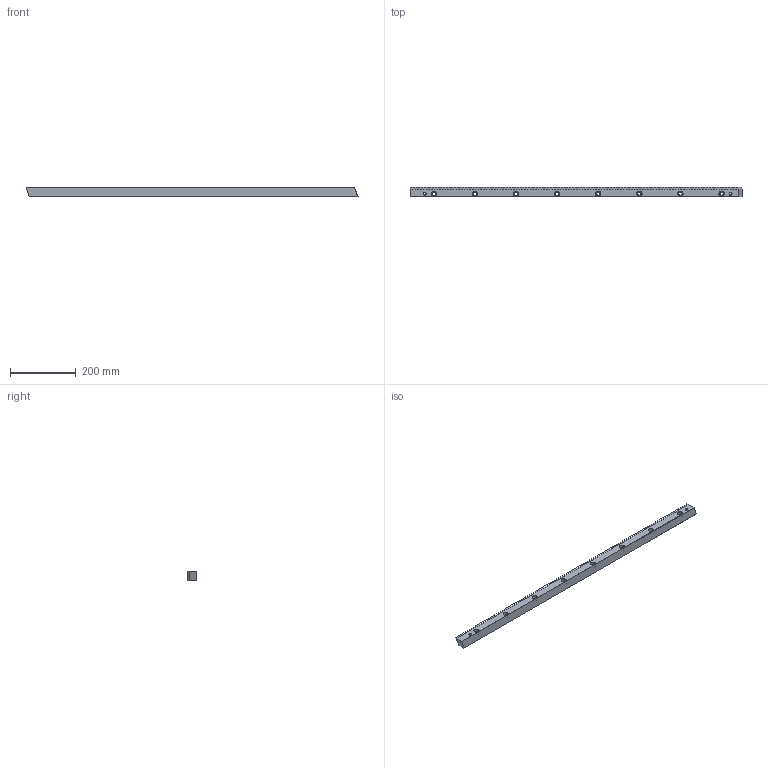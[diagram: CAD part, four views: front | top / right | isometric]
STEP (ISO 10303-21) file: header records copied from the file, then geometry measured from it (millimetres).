
FILE_DESCRIPTION((''),'2;1');
FILE_NAME('P2320D08120','2017-02-20T',('d01943'),(''),'PRO/ENGINEER BY PARAMETRIC TECHNOLOGY CORPORATION, 2008410','PRO/ENGINEER BY PARAMETRIC TECHNOLOGY CORPORATION, 2008410','');
FILE_SCHEMA(('CONFIG_CONTROL_DESIGN'));
Length unit declared in the file: millimetre
Products named in the file (1): P2320D08120
Bounding box: 1009.95 x 29 x 30 mm (x, y, z)
Volume: 763854.6 mm3; surface area: 152259.7 mm2
Topology: 1 solids, 1 shells, 580 faces, 1664 edges, 1094 vertices
Faces by surface type: plane 504, cone 40, cylinder 36
Entity records: 18690 total; most frequent: CARTESIAN_POINT 3338, ORIENTED_EDGE 3328, DIRECTION 2936, EDGE_CURVE 1664, VECTOR 1552, LINE 1552, VERTEX_POINT 1094, AXIS2_PLACEMENT_3D 692
